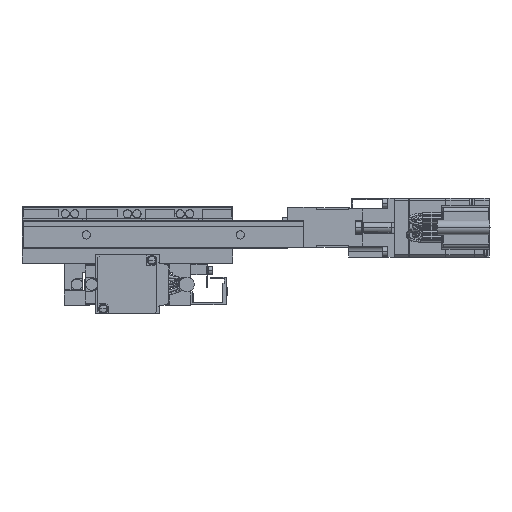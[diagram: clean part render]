
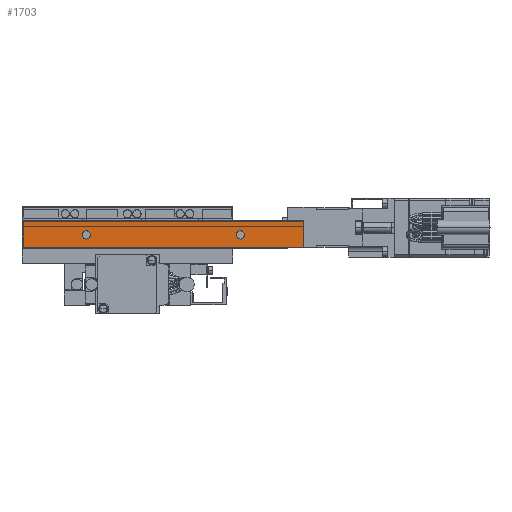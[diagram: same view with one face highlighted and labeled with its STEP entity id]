
A CAD part, left-side view. The second image highlights one B-rep face of the part: STEP entity #1703.
In plain terms, the highlighted planar face has unit normal (-1, 0, 0).
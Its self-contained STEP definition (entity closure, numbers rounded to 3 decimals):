
#1703=ADVANCED_FACE('',(#4376,#4377,#4378),#4379,.F.);
#4376=FACE_BOUND('',#7506,.T.);
#4377=FACE_BOUND('',#7507,.T.);
#4378=FACE_OUTER_BOUND('',#7508,.T.);
#4379=PLANE('',#7509);
#7506=EDGE_LOOP('',(#16878,#16879));
#7507=EDGE_LOOP('',(#16880,#16881));
#7508=EDGE_LOOP('',(#16882,#16883,#16884,#16885));
#7509=AXIS2_PLACEMENT_3D('',#16886,#16887,#16888);
#16878=ORIENTED_EDGE('',*,*,#23041,.T.);
#16879=ORIENTED_EDGE('',*,*,#23040,.T.);
#16880=ORIENTED_EDGE('',*,*,#23043,.T.);
#16881=ORIENTED_EDGE('',*,*,#23036,.T.);
#16882=ORIENTED_EDGE('',*,*,#23044,.T.);
#16883=ORIENTED_EDGE('',*,*,#23045,.F.);
#16884=ORIENTED_EDGE('',*,*,#23046,.F.);
#16885=ORIENTED_EDGE('',*,*,#23047,.T.);
#16886=CARTESIAN_POINT('',(-46.8,-83.5,40.5));
#16887=DIRECTION('',(1.0,0.,0.));
#16888=DIRECTION('',(0.,0.,-1.0));
#23036=EDGE_CURVE('',#28530,#28534,#28536,.T.);
#23040=EDGE_CURVE('',#28538,#28542,#28544,.T.);
#23041=EDGE_CURVE('',#28542,#28538,#28545,.T.);
#23043=EDGE_CURVE('',#28534,#28530,#28547,.T.);
#23044=EDGE_CURVE('',#28548,#28549,#28550,.T.);
#23045=EDGE_CURVE('',#28551,#28549,#28552,.T.);
#23046=EDGE_CURVE('',#28553,#28551,#28554,.T.);
#23047=EDGE_CURVE('',#28553,#28548,#28555,.T.);
#28530=VERTEX_POINT('',#36640);
#28534=VERTEX_POINT('',#36645);
#28536=CIRCLE('',#36648,1.95);
#28538=VERTEX_POINT('',#36650);
#28542=VERTEX_POINT('',#36655);
#28544=CIRCLE('',#36658,1.95);
#28545=CIRCLE('',#36659,1.95);
#28547=CIRCLE('',#36661,1.95);
#28548=VERTEX_POINT('',#36662);
#28549=VERTEX_POINT('',#36663);
#28550=LINE('',#36664,#36665);
#28551=VERTEX_POINT('',#36666);
#28552=LINE('',#36667,#36668);
#28553=VERTEX_POINT('',#36669);
#28554=LINE('',#36670,#36671);
#28555=LINE('',#36672,#36673);
#36640=CARTESIAN_POINT('',(-46.8,-55.45,33.5));
#36645=CARTESIAN_POINT('',(-46.8,-51.55,33.5));
#36648=AXIS2_PLACEMENT_3D('',#44132,#44133,#44134);
#36650=CARTESIAN_POINT('',(-46.8,17.55,33.5));
#36655=CARTESIAN_POINT('',(-46.8,21.45,33.5));
#36658=AXIS2_PLACEMENT_3D('',#44140,#44141,#44142);
#36659=AXIS2_PLACEMENT_3D('',#44143,#44144,#44145);
#36661=AXIS2_PLACEMENT_3D('',#44149,#44150,#44151);
#36662=CARTESIAN_POINT('',(-46.8,49.5,40.5));
#36663=CARTESIAN_POINT('',(-46.8,49.5,27.5));
#36664=CARTESIAN_POINT('',(-46.8,49.5,40.5));
#36665=VECTOR('',#44152,1000.0);
#36666=CARTESIAN_POINT('',(-46.8,-83.5,27.5));
#36667=CARTESIAN_POINT('',(-46.8,-83.5,27.5));
#36668=VECTOR('',#44153,1000.0);
#36669=CARTESIAN_POINT('',(-46.8,-83.5,40.5));
#36670=CARTESIAN_POINT('',(-46.8,-83.5,40.5));
#36671=VECTOR('',#44154,1000.0);
#36672=CARTESIAN_POINT('',(-46.8,-83.5,40.5));
#36673=VECTOR('',#44155,1000.0);
#44132=CARTESIAN_POINT('',(-46.8,-53.5,33.5));
#44133=DIRECTION('',(1.0,0.,0.));
#44134=DIRECTION('',(0.,1.0,0.));
#44140=CARTESIAN_POINT('',(-46.8,19.5,33.5));
#44141=DIRECTION('',(1.0,0.,0.));
#44142=DIRECTION('',(0.,1.0,0.));
#44143=CARTESIAN_POINT('',(-46.8,19.5,33.5));
#44144=DIRECTION('',(1.0,0.,0.));
#44145=DIRECTION('',(0.,1.0,0.));
#44149=CARTESIAN_POINT('',(-46.8,-53.5,33.5));
#44150=DIRECTION('',(1.0,0.,0.));
#44151=DIRECTION('',(0.,1.0,0.));
#44152=DIRECTION('',(0.,0.,-1.0));
#44153=DIRECTION('',(0.,1.0,0.));
#44154=DIRECTION('',(0.,0.,-1.0));
#44155=DIRECTION('',(0.,1.0,0.));
